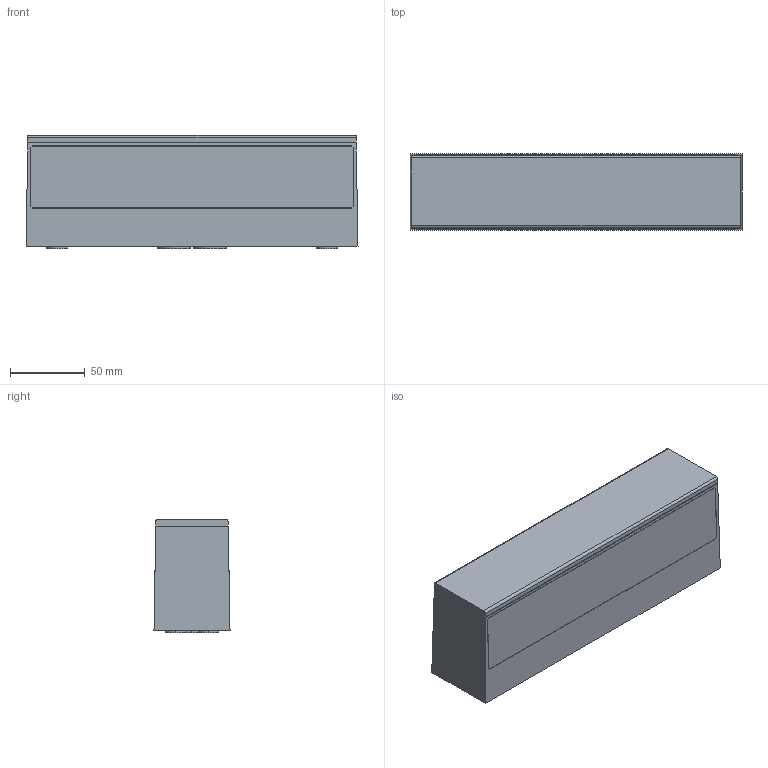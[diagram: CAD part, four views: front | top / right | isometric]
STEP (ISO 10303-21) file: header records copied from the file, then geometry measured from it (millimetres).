
FILE_DESCRIPTION(/* description */ (''),/* implementation_level */ '2;1');
FILE_NAME(/* name */ 'C:\Users\FrancoSartori\Documents\FARO\01_En Proceso\0000_2022\0_DORO\03_Publicación\71898.stp',/* time_stamp */ '2022-02-03T16:30:16+01:00',/* author */ ('FrancoSartori'),/* organization */ (''),/* preprocessor_version */ 'ST-DEVELOPER v18.1',/* originating_system */ 'AutoCAD Mechanical',/* authorisation */ '');
FILE_SCHEMA (('AUTOMOTIVE_DESIGN { 1 0 10303 214 3 1 1 }'));
Length unit declared in the file: millimetre
Products named in the file (2): Product; 71909_ 71910_ 71911 - lamp-538707-Export
Assembly tree (1 placements, depth 2):
  Product
    71909_ 71910_ 71911 - lamp-538707-Export
Bounding box: 221.8 x 50.8 x 75.5 mm (x, y, z)
Volume: 578291.5 mm3; surface area: 285998.7 mm2
Topology: 10 solids, 12 shells, 410 faces, 1070 edges, 706 vertices
Faces by surface type: plane 326, cylinder 84
Entity records: 12732 total; most frequent: CARTESIAN_POINT 2409, ORIENTED_EDGE 2108, DIRECTION 2008, EDGE_CURVE 1070, LINE 918, VECTOR 918, VERTEX_POINT 706, AXIS2_PLACEMENT_3D 545
